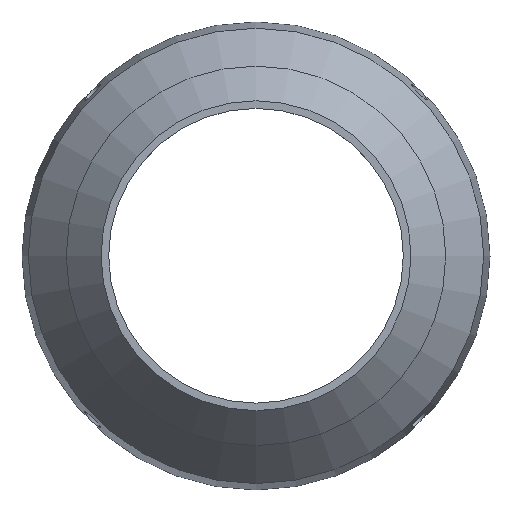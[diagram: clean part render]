
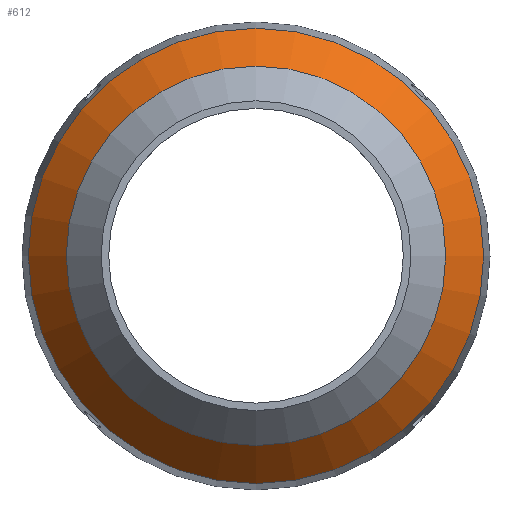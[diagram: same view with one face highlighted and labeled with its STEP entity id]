
A CAD part, top view. The second image highlights one B-rep face of the part: STEP entity #612.
In plain terms, the highlighted conical face has half-angle 40.601 degrees and reference radius 36 mm.
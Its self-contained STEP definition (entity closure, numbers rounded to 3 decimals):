
#31 = VERTEX_POINT('',#32);
#32 = CARTESIAN_POINT('',(36.,0.,151.));
#38 = EDGE_CURVE('',#31,#31,#39,.T.);
#39 = CIRCLE('',#40,36.);
#40 = AXIS2_PLACEMENT_3D('',#41,#42,#43);
#41 = CARTESIAN_POINT('',(0.,0.,151.));
#42 = DIRECTION('',(0.,0.,1.));
#43 = DIRECTION('',(1.,0.,0.));
#612 = ADVANCED_FACE('',(#613),#632,.T.);
#613 = FACE_BOUND('',#614,.T.);
#614 = EDGE_LOOP('',(#615,#616,#624,#631));
#615 = ORIENTED_EDGE('',*,*,#38,.T.);
#616 = ORIENTED_EDGE('',*,*,#617,.T.);
#617 = EDGE_CURVE('',#31,#618,#620,.T.);
#618 = VERTEX_POINT('',#619);
#619 = CARTESIAN_POINT('',(30.,0.,158.));
#620 = LINE('',#621,#622);
#621 = CARTESIAN_POINT('',(36.,0.,151.));
#622 = VECTOR('',#623,1.);
#623 = DIRECTION('',(-0.651,0.,0.759));
#624 = ORIENTED_EDGE('',*,*,#625,.F.);
#625 = EDGE_CURVE('',#618,#618,#626,.T.);
#626 = CIRCLE('',#627,30.);
#627 = AXIS2_PLACEMENT_3D('',#628,#629,#630);
#628 = CARTESIAN_POINT('',(0.,0.,158.));
#629 = DIRECTION('',(0.,0.,1.));
#630 = DIRECTION('',(1.,0.,0.));
#631 = ORIENTED_EDGE('',*,*,#617,.F.);
#632 = CONICAL_SURFACE('',#633,36.,0.709);
#633 = AXIS2_PLACEMENT_3D('',#634,#635,#636);
#634 = CARTESIAN_POINT('',(0.,0.,151.));
#635 = DIRECTION('',(-0.,-0.,-1.));
#636 = DIRECTION('',(1.,0.,0.));
